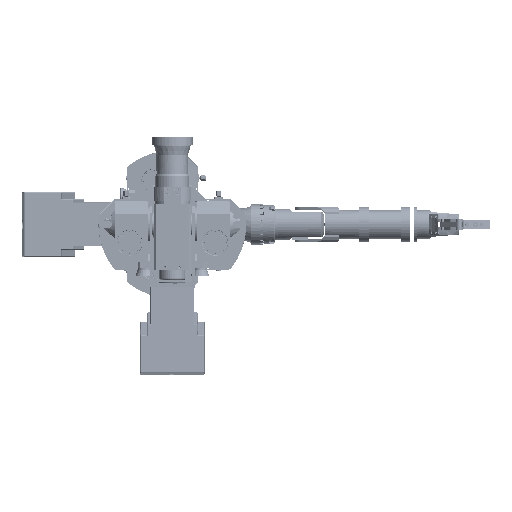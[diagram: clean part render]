
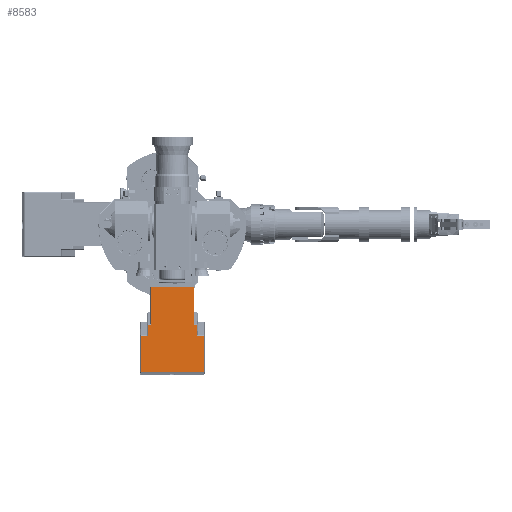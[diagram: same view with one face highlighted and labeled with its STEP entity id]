
A CAD part, front view. The second image highlights one B-rep face of the part: STEP entity #8583.
In plain terms, the highlighted planar face has unit normal (0, -0.999, 0.052).
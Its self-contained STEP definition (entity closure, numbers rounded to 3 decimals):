
#8583 = ADVANCED_FACE( '', ( #19892 ), #19893, .T. );
#19892 = FACE_OUTER_BOUND( '', #33719, .T. );
#19893 = PLANE( '', #33720 );
#33719 = EDGE_LOOP( '', ( #57611, #57612, #57613, #57614, #57615, #57616, #57617, #57618, #57619, #57620, #57621, #57622 ) );
#33720 = AXIS2_PLACEMENT_3D( '', #57623, #57624, #57625 );
#57611 = ORIENTED_EDGE( '', *, *, #77914, .F. );
#57612 = ORIENTED_EDGE( '', *, *, #72836, .F. );
#57613 = ORIENTED_EDGE( '', *, *, #77915, .F. );
#57614 = ORIENTED_EDGE( '', *, *, #75646, .F. );
#57615 = ORIENTED_EDGE( '', *, *, #72116, .F. );
#57616 = ORIENTED_EDGE( '', *, *, #70010, .T. );
#57617 = ORIENTED_EDGE( '', *, *, #74090, .F. );
#57618 = ORIENTED_EDGE( '', *, *, #77916, .T. );
#57619 = ORIENTED_EDGE( '', *, *, #72757, .T. );
#57620 = ORIENTED_EDGE( '', *, *, #77917, .T. );
#57621 = ORIENTED_EDGE( '', *, *, #72273, .F. );
#57622 = ORIENTED_EDGE( '', *, *, #77918, .T. );
#57623 = CARTESIAN_POINT( '', ( 0., -907., -217.5 ) );
#57624 = DIRECTION( '', ( 0., -0.999, 0.052 ) );
#57625 = DIRECTION( '', ( -1., 0., 0. ) );
#70010 = EDGE_CURVE( '', #82168, #82165, #82169, .T. );
#72116 = EDGE_CURVE( '', #82168, #85759, #85760, .T. );
#72273 = EDGE_CURVE( '', #86013, #86014, #86015, .T. );
#72757 = EDGE_CURVE( '', #86792, #86790, #86793, .F. );
#72836 = EDGE_CURVE( '', #86915, #85960, #86917, .T. );
#74090 = EDGE_CURVE( '', #88887, #82165, #88888, .T. );
#75646 = EDGE_CURVE( '', #85759, #91208, #91209, .T. );
#77914 = EDGE_CURVE( '', #85960, #94343, #94344, .T. );
#77915 = EDGE_CURVE( '', #91208, #86915, #94345, .T. );
#77916 = EDGE_CURVE( '', #88887, #86792, #94346, .T. );
#77917 = EDGE_CURVE( '', #86790, #86014, #94347, .T. );
#77918 = EDGE_CURVE( '', #86013, #94343, #94348, .T. );
#82165 = VERTEX_POINT( '', #100410 );
#82168 = VERTEX_POINT( '', #100413 );
#82169 = LINE( '', #100414, #100415 );
#85759 = VERTEX_POINT( '', #107519 );
#85760 = LINE( '', #107520, #107521 );
#85960 = VERTEX_POINT( '', #107808 );
#86013 = VERTEX_POINT( '', #107932 );
#86014 = VERTEX_POINT( '', #107933 );
#86015 = LINE( '', #107934, #107935 );
#86790 = VERTEX_POINT( '', #109741 );
#86792 = VERTEX_POINT( '', #109743 );
#86793 = LINE( '', #109744, #109745 );
#86915 = VERTEX_POINT( '', #109899 );
#86917 = LINE( '', #109901, #109902 );
#88887 = VERTEX_POINT( '', #114488 );
#88888 = LINE( '', #114489, #114490 );
#91208 = VERTEX_POINT( '', #118423 );
#91209 = LINE( '', #118424, #118425 );
#94343 = VERTEX_POINT( '', #124398 );
#94344 = LINE( '', #124399, #124400 );
#94345 = LINE( '', #124401, #124402 );
#94346 = LINE( '', #124403, #124404 );
#94347 = LINE( '', #124405, #124406 );
#94348 = LINE( '', #124407, #124408 );
#100410 = CARTESIAN_POINT( '', ( 84., -913.699, -345.325 ) );
#100413 = CARTESIAN_POINT( '', ( 84., -915.792, -385.27 ) );
#100414 = CARTESIAN_POINT( '', ( 84., -909.663, -268.316 ) );
#100415 = VECTOR( '', #130093, 1000. );
#107519 = CARTESIAN_POINT( '', ( 108., -915.792, -385.27 ) );
#107520 = CARTESIAN_POINT( '', ( 55.5, -915.792, -385.27 ) );
#107521 = VECTOR( '', #133024, 1000. );
#107808 = CARTESIAN_POINT( '', ( -108., -915.792, -385.27 ) );
#107932 = CARTESIAN_POINT( '', ( -84., -913.699, -345.325 ) );
#107933 = CARTESIAN_POINT( '', ( -73., -913.699, -345.325 ) );
#107934 = CARTESIAN_POINT( '', ( -55.5, -913.699, -345.325 ) );
#107935 = VECTOR( '', #133227, 1000. );
#109741 = CARTESIAN_POINT( '', ( -73., -907., -217.5 ) );
#109743 = CARTESIAN_POINT( '', ( 73., -907., -217.5 ) );
#109744 = CARTESIAN_POINT( '', ( 0., -907., -217.5 ) );
#109745 = VECTOR( '', #133839, 1000. );
#109899 = CARTESIAN_POINT( '', ( -108., -922.282, -509.1 ) );
#109901 = CARTESIAN_POINT( '', ( -108., -912.295, -318.529 ) );
#109902 = VECTOR( '', #133956, 1000. );
#114488 = CARTESIAN_POINT( '', ( 73., -913.699, -345.325 ) );
#114489 = CARTESIAN_POINT( '', ( 55.5, -913.699, -345.325 ) );
#114490 = VECTOR( '', #135530, 1000. );
#118423 = CARTESIAN_POINT( '', ( 108., -922.282, -509.1 ) );
#118424 = CARTESIAN_POINT( '', ( 108., -913.839, -347.998 ) );
#118425 = VECTOR( '', #137611, 1000. );
#124398 = CARTESIAN_POINT( '', ( -84., -915.792, -385.27 ) );
#124399 = CARTESIAN_POINT( '', ( -55.5, -915.792, -385.27 ) );
#124400 = VECTOR( '', #140239, 1000. );
#124401 = CARTESIAN_POINT( '', ( 0., -922.282, -509.1 ) );
#124402 = VECTOR( '', #140240, 1000. );
#124403 = CARTESIAN_POINT( '', ( 73., -906.774, -213.188 ) );
#124404 = VECTOR( '', #140241, 1000. );
#124405 = CARTESIAN_POINT( '', ( -73., -907., -217.5 ) );
#124406 = VECTOR( '', #140242, 1000. );
#124407 = CARTESIAN_POINT( '', ( -84., -909.663, -268.316 ) );
#124408 = VECTOR( '', #140243, 1000. );
#130093 = DIRECTION( '', ( 0., 0.052, 0.999 ) );
#133024 = DIRECTION( '', ( 1., 0., 0. ) );
#133227 = DIRECTION( '', ( 1., 0., 0. ) );
#133839 = DIRECTION( '', ( 1., 0., 0. ) );
#133956 = DIRECTION( '', ( 0., 0.052, 0.999 ) );
#135530 = DIRECTION( '', ( 1., 0., 0. ) );
#137611 = DIRECTION( '', ( 0., -0.052, -0.999 ) );
#140239 = DIRECTION( '', ( 1., 0., 0. ) );
#140240 = DIRECTION( '', ( -1., 0., 0. ) );
#140241 = DIRECTION( '', ( 0., 0.052, 0.999 ) );
#140242 = DIRECTION( '', ( 0., -0.052, -0.999 ) );
#140243 = DIRECTION( '', ( 0., -0.052, -0.999 ) );
